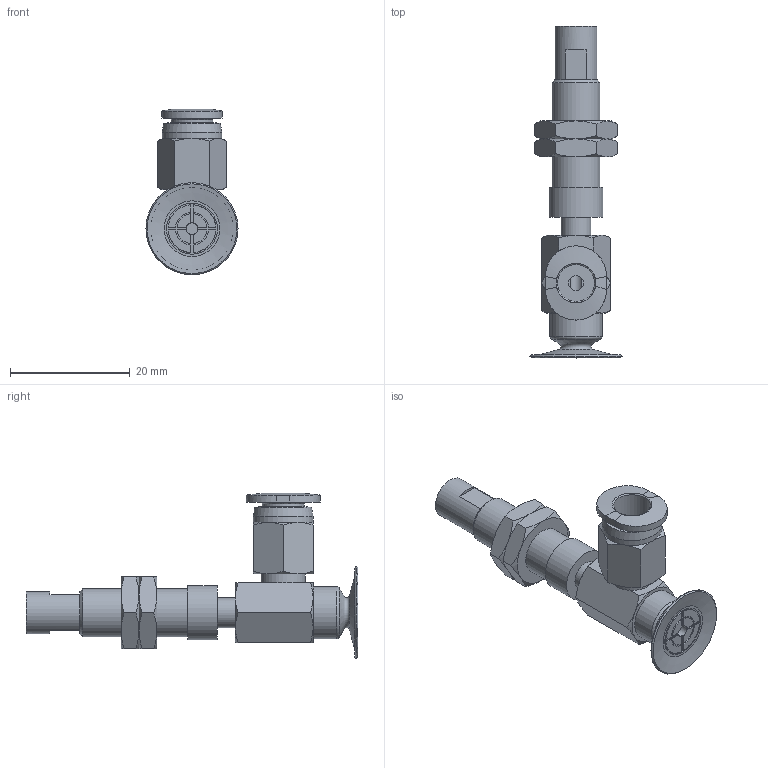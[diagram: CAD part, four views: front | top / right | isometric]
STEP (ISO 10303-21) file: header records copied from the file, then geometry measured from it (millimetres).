
FILE_DESCRIPTION(('STEP AP203'),'1');
FILE_NAME('-O.stp','2025-02-14T00:54:16',(' '),(' '),'Spatial InterOp 3D',' ',' ');
FILE_SCHEMA(('CONFIG_CONTROL_DESIGN'));
Length unit declared in the file: millimetre
Products named in the file (7): BNABPAYS-15B-3-※-O; NAPAYS-10A-3--M; NAPAYS-10A-3--F; Nut-10A-S; CONNECTOR-10A-3-PA; BPAG-15B-※_3D; PC-C_06-M5
Assembly tree (7 placements, depth 2):
  BNABPAYS-15B-3-※-O
    NAPAYS-10A-3--M
    NAPAYS-10A-3--F
    Nut-10A-S  x2
    CONNECTOR-10A-3-PA
    BPAG-15B-※_3D
    PC-C_06-M5
Bounding box: 15.4 x 55.5 x 27.68 mm (x, y, z)
Volume: 3406.5 mm3; surface area: 5382.1 mm2
Topology: 6 solids, 9 shells, 222 faces, 483 edges, 293 vertices
Faces by surface type: plane 88, cone 76, cylinder 39, torus 12, bspline 4, revolution 3
Full cylindrical faces by diameter (mm): 2 x2, 4 x4, 4.134 x2, 5 x4, 6 x2, 7 x2, 7.188 x2, 7.4 x1, 8 x1, 8.2 x1, 8.5 x1, 8.7 x1, 9 x1, 10 x1
Entity records: 5904 total; most frequent: CARTESIAN_POINT 1603, DIRECTION 821, ORIENTED_EDGE 732, EDGE_CURVE 368, AXIS2_PLACEMENT_3D 350, EDGE_LOOP 280, VERTEX_POINT 252, FACE_OUTER_BOUND 175
